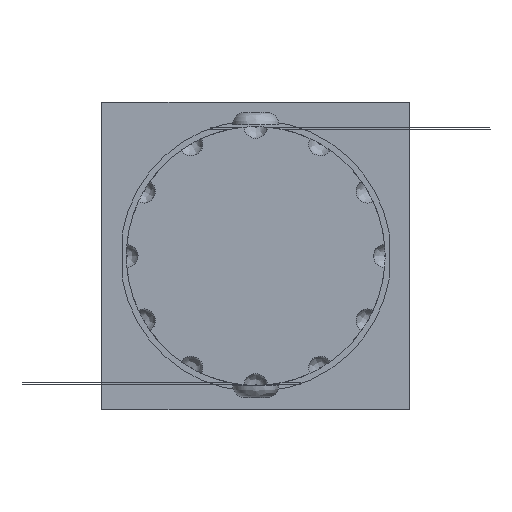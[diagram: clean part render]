
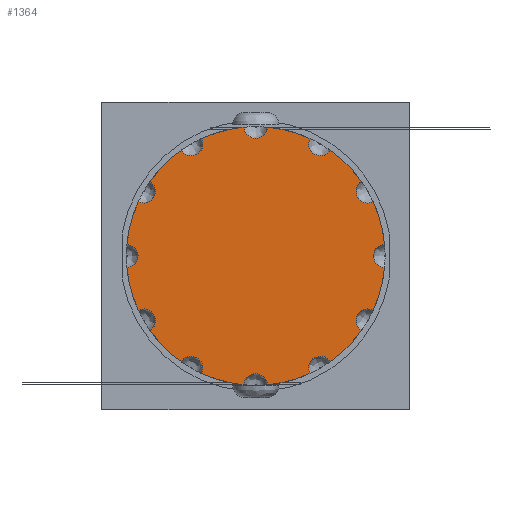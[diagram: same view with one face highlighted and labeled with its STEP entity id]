
A CAD part, front view. The second image highlights one B-rep face of the part: STEP entity #1364.
In plain terms, the highlighted planar face has unit normal (0, -1, 0).
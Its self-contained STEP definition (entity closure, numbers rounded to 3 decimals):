
#181=CARTESIAN_POINT('',(21.,-25.,0.));
#182=DIRECTION('',(0.,-1.,0.));
#183=DIRECTION('',(-0.045,0.,0.999));
#184=AXIS2_PLACEMENT_3D('',#181,#182,#183);
#186=CARTESIAN_POINT('',(0.,-25.,0.));
#187=DIRECTION('',(0.,-1.,0.));
#188=DIRECTION('',(0.908,0.,-0.42));
#189=AXIS2_PLACEMENT_3D('',#186,#187,#188);
#191=CARTESIAN_POINT('',(0.,-25.,0.));
#192=DIRECTION('',(0.,-1.,0.));
#193=DIRECTION('',(0.576,0.,-0.817));
#194=AXIS2_PLACEMENT_3D('',#191,#192,#193);
#196=CARTESIAN_POINT('',(10.5,-25.,-18.187));
#197=DIRECTION('',(0.,-1.,0.));
#198=DIRECTION('',(0.843,0.,0.539));
#199=AXIS2_PLACEMENT_3D('',#196,#197,#198);
#201=CARTESIAN_POINT('',(0.,-25.,0.));
#202=DIRECTION('',(0.,-1.,0.));
#203=DIRECTION('',(0.09,0.,-0.996));
#204=AXIS2_PLACEMENT_3D('',#201,#202,#203);
#206=CARTESIAN_POINT('',(0.,-25.,-21.));
#207=DIRECTION('',(0.,-1.,0.));
#208=DIRECTION('',(0.999,0.,0.045));
#209=AXIS2_PLACEMENT_3D('',#206,#207,#208);
#211=CARTESIAN_POINT('',(0.,-25.,0.));
#212=DIRECTION('',(0.,-1.,0.));
#213=DIRECTION('',(-0.42,0.,-0.908));
#214=AXIS2_PLACEMENT_3D('',#211,#212,#213);
#216=CARTESIAN_POINT('',(-10.5,-25.,-18.187));
#217=DIRECTION('',(0.,-1.,0.));
#218=DIRECTION('',(0.888,0.,-0.46));
#219=AXIS2_PLACEMENT_3D('',#216,#217,#218);
#221=CARTESIAN_POINT('',(0.,-25.,0.));
#222=DIRECTION('',(0.,-1.,0.));
#223=DIRECTION('',(-0.817,0.,-0.576));
#224=AXIS2_PLACEMENT_3D('',#221,#222,#223);
#226=CARTESIAN_POINT('',(-18.187,-25.,-10.5));
#227=DIRECTION('',(0.,-1.,0.));
#228=DIRECTION('',(0.539,0.,-0.843));
#229=AXIS2_PLACEMENT_3D('',#226,#227,#228);
#231=CARTESIAN_POINT('',(0.,-25.,0.));
#232=DIRECTION('',(0.,-1.,0.));
#233=DIRECTION('',(-0.996,0.,-0.09));
#234=AXIS2_PLACEMENT_3D('',#231,#232,#233);
#236=CARTESIAN_POINT('',(-21.,-25.,0.));
#237=DIRECTION('',(0.,-1.,0.));
#238=DIRECTION('',(0.045,0.,-0.999));
#239=AXIS2_PLACEMENT_3D('',#236,#237,#238);
#241=CARTESIAN_POINT('',(0.,-25.,0.));
#242=DIRECTION('',(0.,-1.,0.));
#243=DIRECTION('',(-0.908,0.,0.42));
#244=AXIS2_PLACEMENT_3D('',#241,#242,#243);
#246=CARTESIAN_POINT('',(-18.187,-25.,10.5));
#247=DIRECTION('',(0.,-1.,0.));
#248=DIRECTION('',(-0.46,0.,-0.888));
#249=AXIS2_PLACEMENT_3D('',#246,#247,#248);
#251=CARTESIAN_POINT('',(0.,-25.,0.));
#252=DIRECTION('',(0.,-1.,0.));
#253=DIRECTION('',(-0.576,0.,0.817));
#254=AXIS2_PLACEMENT_3D('',#251,#252,#253);
#256=CARTESIAN_POINT('',(-10.5,-25.,18.187));
#257=DIRECTION('',(0.,-1.,0.));
#258=DIRECTION('',(-0.843,0.,-0.539));
#259=AXIS2_PLACEMENT_3D('',#256,#257,#258);
#261=CARTESIAN_POINT('',(0.,-25.,0.));
#262=DIRECTION('',(0.,-1.,0.));
#263=DIRECTION('',(-0.09,0.,0.996));
#264=AXIS2_PLACEMENT_3D('',#261,#262,#263);
#266=CARTESIAN_POINT('',(0.,-25.,21.));
#267=DIRECTION('',(0.,-1.,0.));
#268=DIRECTION('',(-0.999,0.,-0.045));
#269=AXIS2_PLACEMENT_3D('',#266,#267,#268);
#271=CARTESIAN_POINT('',(0.,-25.,0.));
#272=DIRECTION('',(0.,-1.,0.));
#273=DIRECTION('',(0.42,0.,0.908));
#274=AXIS2_PLACEMENT_3D('',#271,#272,#273);
#276=CARTESIAN_POINT('',(10.5,-25.,18.187));
#277=DIRECTION('',(0.,-1.,0.));
#278=DIRECTION('',(-0.888,0.,0.46));
#279=AXIS2_PLACEMENT_3D('',#276,#277,#278);
#281=CARTESIAN_POINT('',(0.,-25.,0.));
#282=DIRECTION('',(0.,-1.,0.));
#283=DIRECTION('',(0.817,0.,0.576));
#284=AXIS2_PLACEMENT_3D('',#281,#282,#283);
#286=CARTESIAN_POINT('',(18.187,-25.,10.5));
#287=DIRECTION('',(0.,-1.,0.));
#288=DIRECTION('',(-0.539,0.,0.843));
#289=AXIS2_PLACEMENT_3D('',#286,#287,#288);
#291=CARTESIAN_POINT('',(0.,-25.,0.));
#292=DIRECTION('',(0.,-1.,0.));
#293=DIRECTION('',(0.996,0.,0.09));
#294=AXIS2_PLACEMENT_3D('',#291,#292,#293);
#572=CARTESIAN_POINT('',(18.187,-25.,-10.5));
#573=DIRECTION('',(0.,1.,0.));
#574=DIRECTION('',(-0.539,0.,-0.843));
#575=AXIS2_PLACEMENT_3D('',#572,#573,#574);
#1109=CARTESIAN_POINT('',(17.163,-25.,-12.101));
#1110=CARTESIAN_POINT('',(19.061,-25.,-8.813));
#1111=VERTEX_POINT('',#1109);
#1112=VERTEX_POINT('',#1110);
#1113=CARTESIAN_POINT('',(12.101,-25.,-17.163));
#1114=CARTESIAN_POINT('',(8.813,-25.,-19.061));
#1115=VERTEX_POINT('',#1113);
#1116=VERTEX_POINT('',#1114);
#1117=CARTESIAN_POINT('',(1.898,-25.,-20.914));
#1118=CARTESIAN_POINT('',(-1.898,-25.,-20.914));
#1119=VERTEX_POINT('',#1117);
#1120=VERTEX_POINT('',#1118);
#1121=CARTESIAN_POINT('',(-8.813,-25.,-19.061));
#1122=CARTESIAN_POINT('',(-12.101,-25.,-17.163));
#1123=VERTEX_POINT('',#1121);
#1124=VERTEX_POINT('',#1122);
#1125=CARTESIAN_POINT('',(-17.163,-25.,-12.101));
#1126=CARTESIAN_POINT('',(-19.061,-25.,-8.813));
#1127=VERTEX_POINT('',#1125);
#1128=VERTEX_POINT('',#1126);
#1129=CARTESIAN_POINT('',(-20.914,-25.,-1.898));
#1130=CARTESIAN_POINT('',(-20.914,-25.,1.898));
#1131=VERTEX_POINT('',#1129);
#1132=VERTEX_POINT('',#1130);
#1133=CARTESIAN_POINT('',(-19.061,-25.,8.813));
#1134=CARTESIAN_POINT('',(-17.163,-25.,12.101));
#1135=VERTEX_POINT('',#1133);
#1136=VERTEX_POINT('',#1134);
#1137=CARTESIAN_POINT('',(-12.101,-25.,17.163));
#1138=CARTESIAN_POINT('',(-8.813,-25.,19.061));
#1139=VERTEX_POINT('',#1137);
#1140=VERTEX_POINT('',#1138);
#1141=CARTESIAN_POINT('',(-1.898,-25.,20.914));
#1142=CARTESIAN_POINT('',(1.898,-25.,20.914));
#1143=VERTEX_POINT('',#1141);
#1144=VERTEX_POINT('',#1142);
#1145=CARTESIAN_POINT('',(8.813,-25.,19.061));
#1146=CARTESIAN_POINT('',(12.101,-25.,17.163));
#1147=VERTEX_POINT('',#1145);
#1148=VERTEX_POINT('',#1146);
#1149=CARTESIAN_POINT('',(17.163,-25.,12.101));
#1150=CARTESIAN_POINT('',(19.061,-25.,8.813));
#1151=VERTEX_POINT('',#1149);
#1152=VERTEX_POINT('',#1150);
#1153=CARTESIAN_POINT('',(20.914,-25.,1.898));
#1154=CARTESIAN_POINT('',(20.914,-25.,-1.898));
#1155=VERTEX_POINT('',#1153);
#1156=VERTEX_POINT('',#1154);
#1316=CARTESIAN_POINT('',(0.,-25.,0.));
#1317=DIRECTION('',(0.,-1.,0.));
#1318=DIRECTION('',(0.,0.,-1.));
#1319=AXIS2_PLACEMENT_3D('',#1316,#1317,#1318);
#1320=PLANE('',#1319);
#1322=ORIENTED_EDGE('',*,*,#1321,.T.);
#1324=ORIENTED_EDGE('',*,*,#1323,.F.);
#1326=ORIENTED_EDGE('',*,*,#1325,.F.);
#1328=ORIENTED_EDGE('',*,*,#1327,.F.);
#1330=ORIENTED_EDGE('',*,*,#1329,.T.);
#1332=ORIENTED_EDGE('',*,*,#1331,.F.);
#1334=ORIENTED_EDGE('',*,*,#1333,.T.);
#1335=ORIENTED_EDGE('',*,*,#1200,.F.);
#1337=ORIENTED_EDGE('',*,*,#1336,.T.);
#1338=ORIENTED_EDGE('',*,*,#1188,.F.);
#1340=ORIENTED_EDGE('',*,*,#1339,.T.);
#1341=ORIENTED_EDGE('',*,*,#1176,.F.);
#1342=ORIENTED_EDGE('',*,*,#1273,.T.);
#1343=ORIENTED_EDGE('',*,*,#1260,.F.);
#1345=ORIENTED_EDGE('',*,*,#1344,.T.);
#1346=ORIENTED_EDGE('',*,*,#1248,.F.);
#1348=ORIENTED_EDGE('',*,*,#1347,.T.);
#1349=ORIENTED_EDGE('',*,*,#1236,.F.);
#1351=ORIENTED_EDGE('',*,*,#1350,.T.);
#1353=ORIENTED_EDGE('',*,*,#1352,.F.);
#1355=ORIENTED_EDGE('',*,*,#1354,.T.);
#1357=ORIENTED_EDGE('',*,*,#1356,.F.);
#1359=ORIENTED_EDGE('',*,*,#1358,.T.);
#1361=ORIENTED_EDGE('',*,*,#1360,.F.);
#1362=EDGE_LOOP('',(#1322,#1324,#1326,#1328,#1330,#1332,#1334,#1335,#1337,#1338,
#1340,#1341,#1342,#1343,#1345,#1346,#1348,#1349,#1351,#1353,#1355,#1357,#1359,
#1361));
#1363=FACE_OUTER_BOUND('',#1362,.F.);
#1364=ADVANCED_FACE('',(#1363),#1320,.T.);
#185=CIRCLE('',#184,1.9);
#190=CIRCLE('',#189,21.);
#195=CIRCLE('',#194,21.);
#200=CIRCLE('',#199,1.9);
#205=CIRCLE('',#204,21.);
#210=CIRCLE('',#209,1.9);
#215=CIRCLE('',#214,21.);
#220=CIRCLE('',#219,1.9);
#225=CIRCLE('',#224,21.);
#230=CIRCLE('',#229,1.9);
#235=CIRCLE('',#234,21.);
#240=CIRCLE('',#239,1.9);
#245=CIRCLE('',#244,21.);
#250=CIRCLE('',#249,1.9);
#255=CIRCLE('',#254,21.);
#260=CIRCLE('',#259,1.9);
#265=CIRCLE('',#264,21.);
#270=CIRCLE('',#269,1.9);
#275=CIRCLE('',#274,21.);
#280=CIRCLE('',#279,1.9);
#285=CIRCLE('',#284,21.);
#290=CIRCLE('',#289,1.9);
#295=CIRCLE('',#294,21.);
#576=CIRCLE('',#575,1.9);
#1176=EDGE_CURVE('',#1131,#1128,#235,.T.);
#1188=EDGE_CURVE('',#1127,#1124,#225,.T.);
#1200=EDGE_CURVE('',#1123,#1120,#215,.T.);
#1236=EDGE_CURVE('',#1143,#1140,#265,.T.);
#1248=EDGE_CURVE('',#1139,#1136,#255,.T.);
#1260=EDGE_CURVE('',#1135,#1132,#245,.T.);
#1273=EDGE_CURVE('',#1131,#1132,#240,.T.);
#1321=EDGE_CURVE('',#1155,#1156,#185,.T.);
#1323=EDGE_CURVE('',#1112,#1156,#190,.T.);
#1325=EDGE_CURVE('',#1111,#1112,#576,.T.);
#1327=EDGE_CURVE('',#1115,#1111,#195,.T.);
#1329=EDGE_CURVE('',#1115,#1116,#200,.T.);
#1331=EDGE_CURVE('',#1119,#1116,#205,.T.);
#1333=EDGE_CURVE('',#1119,#1120,#210,.T.);
#1336=EDGE_CURVE('',#1123,#1124,#220,.T.);
#1339=EDGE_CURVE('',#1127,#1128,#230,.T.);
#1344=EDGE_CURVE('',#1135,#1136,#250,.T.);
#1347=EDGE_CURVE('',#1139,#1140,#260,.T.);
#1350=EDGE_CURVE('',#1143,#1144,#270,.T.);
#1352=EDGE_CURVE('',#1147,#1144,#275,.T.);
#1354=EDGE_CURVE('',#1147,#1148,#280,.T.);
#1356=EDGE_CURVE('',#1151,#1148,#285,.T.);
#1358=EDGE_CURVE('',#1151,#1152,#290,.T.);
#1360=EDGE_CURVE('',#1155,#1152,#295,.T.);
